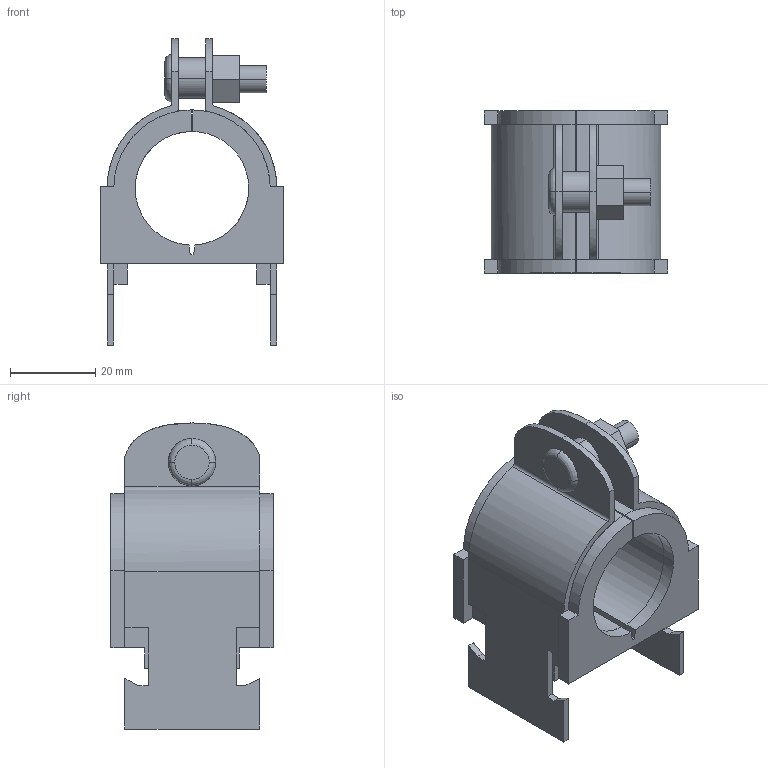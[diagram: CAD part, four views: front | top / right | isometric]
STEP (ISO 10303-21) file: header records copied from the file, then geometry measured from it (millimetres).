
FILE_DESCRIPTION(('TurboCAD Mac Pro'),'Build 980');
FILE_NAME('017N022.stp',' ',(''),(''),'ACIS Interop','IMSI','TurboCAD Mac Pro BY IMSI, INCORPORATED');
FILE_SCHEMA(('automotive_design'));
Length unit declared in the file: inch
Products named in the file (3): 1; 2; 3
Bounding box: 43.05 x 38.1 x 71.88 mm (x, y, z)
Volume: 33851.2 mm3; surface area: 21486.8 mm2
Topology: 3 solids, 3 shells, 148 faces, 395 edges, 256 vertices
Faces by surface type: plane 102, bspline 46
Entity records: 7133 total; most frequent: CARTESIAN_POINT 1768, ORIENTED_EDGE 790, DIRECTION 501, EDGE_CURVE 395, STYLED_ITEM 307, PRESENTATION_STYLE_ASSIGNMENT 307, COLOUR_RGB 307, LINE 283
